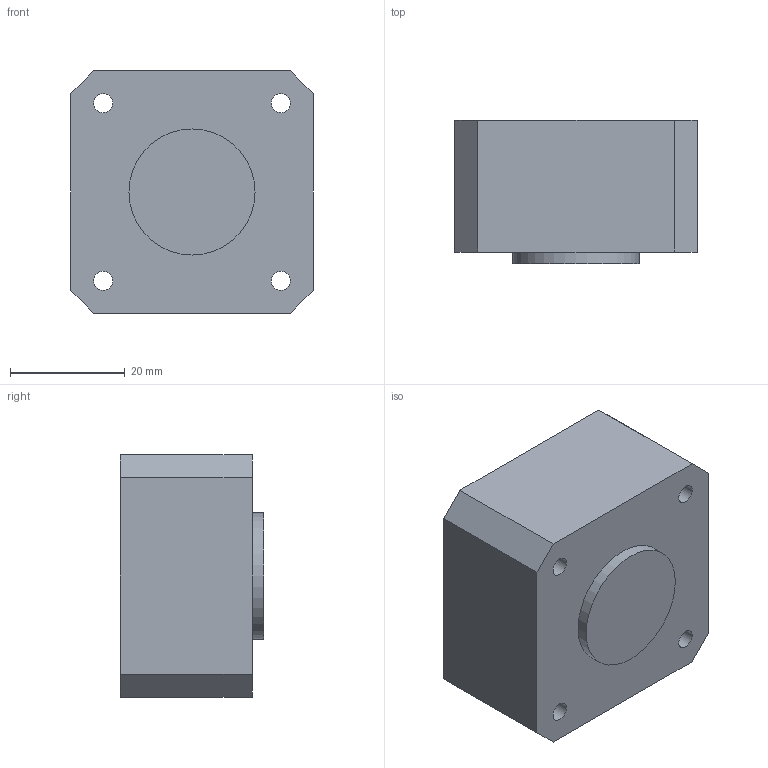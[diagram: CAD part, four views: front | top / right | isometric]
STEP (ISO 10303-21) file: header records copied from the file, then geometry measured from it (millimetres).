
FILE_DESCRIPTION(/* description */ (''),/* implementation_level */ '2;1');
FILE_NAME(/* name */ 'Nema obudowa.step',/* time_stamp */ '2026-03-04T15:17:03+01:00',/* author */ (''),/* organization */ (''),/* preprocessor_version */ 'ST-DEVELOPER v20.1',/* originating_system */ 'Autodesk Translation Framework v14.24.0.0',/* authorisation */ '');
FILE_SCHEMA (('AUTOMOTIVE_DESIGN { 1 0 10303 214 3 1 1 }'));
Length unit declared in the file: millimetre
Products named in the file (1): Nema obudowa
Bounding box: 42.3 x 25 x 42.3 mm (x, y, z)
Volume: 40391.1 mm3; surface area: 8214.2 mm2
Topology: 1 solids, 1 shells, 16 faces, 39 edges, 26 vertices
Faces by surface type: plane 11, cylinder 5
Full cylindrical faces by diameter (mm): 3.3 x4, 22 x1
Entity records: 522 total; most frequent: DIRECTION 83, CARTESIAN_POINT 82, ORIENTED_EDGE 78, EDGE_CURVE 39, LINE 29, VECTOR 29, AXIS2_PLACEMENT_3D 27, VERTEX_POINT 26
